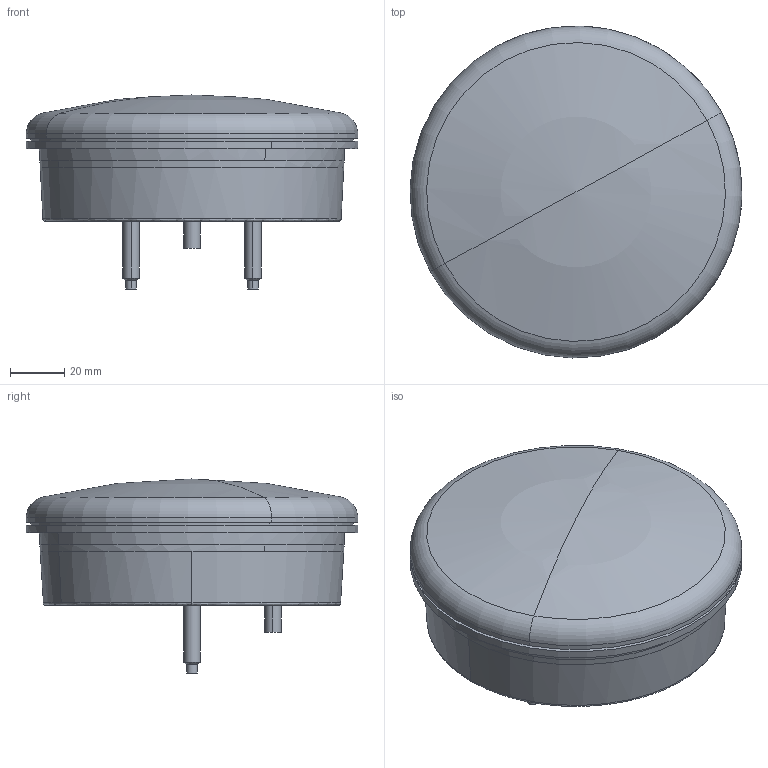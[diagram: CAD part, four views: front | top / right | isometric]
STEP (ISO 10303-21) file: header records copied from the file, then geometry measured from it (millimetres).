
FILE_DESCRIPTION(('CATIA V5 STEP Exchange','CAx-IF Rec.Pracs.--- Model Styling and Organization---1.5--- 2016-08-15','CAx-IF Rec.Pracs.---Supplemental Geometry---1.0---2011-11-01','CAx-IF Rec.Pracs.--- Composite Materials ---1.1---2010-07-15'),'2;1');
FILE_NAME('E:\tmp\ddx\2011206\HELLA_3D_data_LED_rear_lamp_122 mm_round_2SD-344-200.stp','2022-01-18T07:31:39+00:00',('none'),('none'),'CATIA Version 5-6 Release 2020 SP3 HF9','CATIA V5 STEP AP214 Edition 3 v2','none');
FILE_SCHEMA(('AUTOMOTIVE_DESIGN { 1 0 10303 214 3 1 1 1 }'));
Length unit declared in the file: millimetre
Products named in the file (1): 10000142536_D10_001
Bounding box: 122.47 x 122.47 x 71.56 mm (x, y, z)
Volume: 440167.2 mm3; surface area: 40004 mm2
Topology: 1 solids, 3 shells, 99 faces, 233 edges, 151 vertices
Faces by surface type: plane 33, cone 29, cylinder 22, bspline 11, torus 2, sphere 2
Entity records: 3351 total; most frequent: CARTESIAN_POINT 1337, ORIENTED_EDGE 462, DIRECTION 283, EDGE_CURVE 231, AXIS2_PLACEMENT_3D 156, VERTEX_POINT 151, EDGE_LOOP 112, ADVANCED_FACE 99
